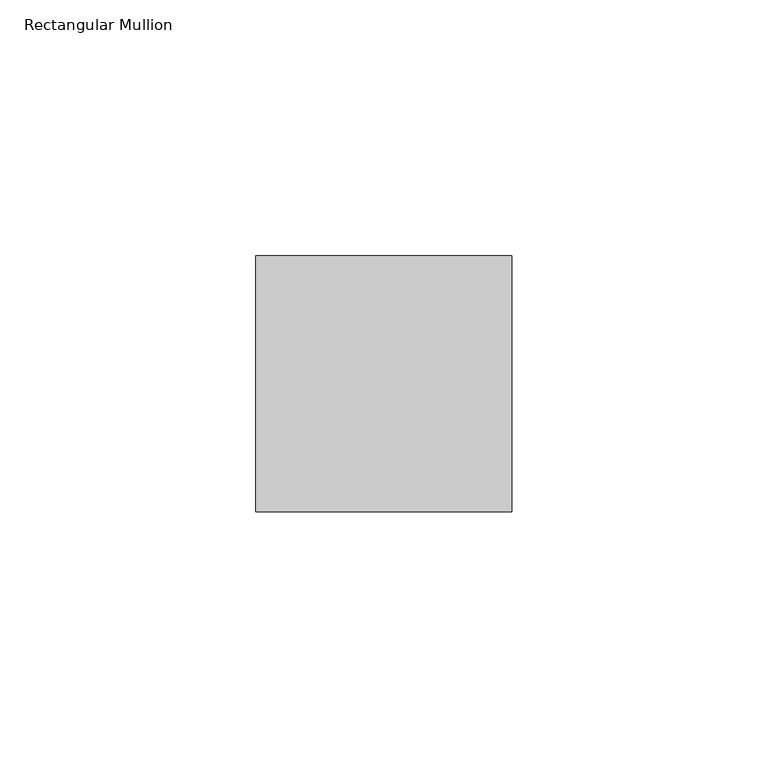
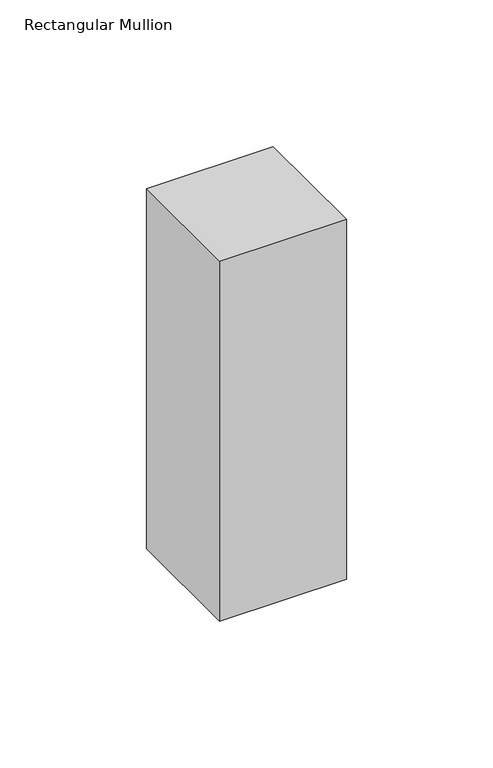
"""IFC4 building model written with IfcOpenShell, lengths in millimetres: member geometry, Rectangular Mullion : RSen_21_CWM_support profile 50x50 - right_gen_duco projects."""

from ifc_helpers import new_model, si_unit, frame, origin, place, context, project, spatial, polyline, outline, extrude, source, transform, mapped, element, save


def rectangular_mullion_64cc6fdd(model_context):
    return source(origin(), model_context, "Body", "SweptSolid", [
        extrude(outline(polyline([(-50.0, 1.0), (0.0, 1.0), (0.0, -49.0), (-50.0, -49.0), (-50.0, 1.0)])), frame((0.0, 0.0, -150.0), z_axis=(0.0, 0.0, 1.0), x_axis=(1.0, 0.0, 0.0)), (0.0, 0.0, 1.0), 150.0),
    ])


if __name__ == "__main__":
    model = new_model("IFC4")
    model_context = context("Model", 3, world=origin())
    ifc_project = project(units=[si_unit("LENGTHUNIT", "METRE", prefix="MILLI")], contexts=[model_context])
    site = spatial("IfcSite", under=ifc_project)
    building = spatial("IfcBuilding", under=site)
    placement = place(None, origin())
    rectangular_mullion_shape = rectangular_mullion_64cc6fdd(model_context)
    element("IfcMember", 1, ObjectType="Rectangular Mullion : RSen_21_CWM_support profile 50x50 - right_gen_duco projects", at=placement, inside=building, context=model_context, shape_type="MappedRepresentation", body=[
        mapped(rectangular_mullion_shape, transform((0.0, 0.0, 0.0), x_axis=(1.0, 0.0, 0.0), y_axis=(0.0, 1.0, 0.0), z_axis=(0.0, 0.0, 1.0))),
    ])
    save(model, "model.ifc")
